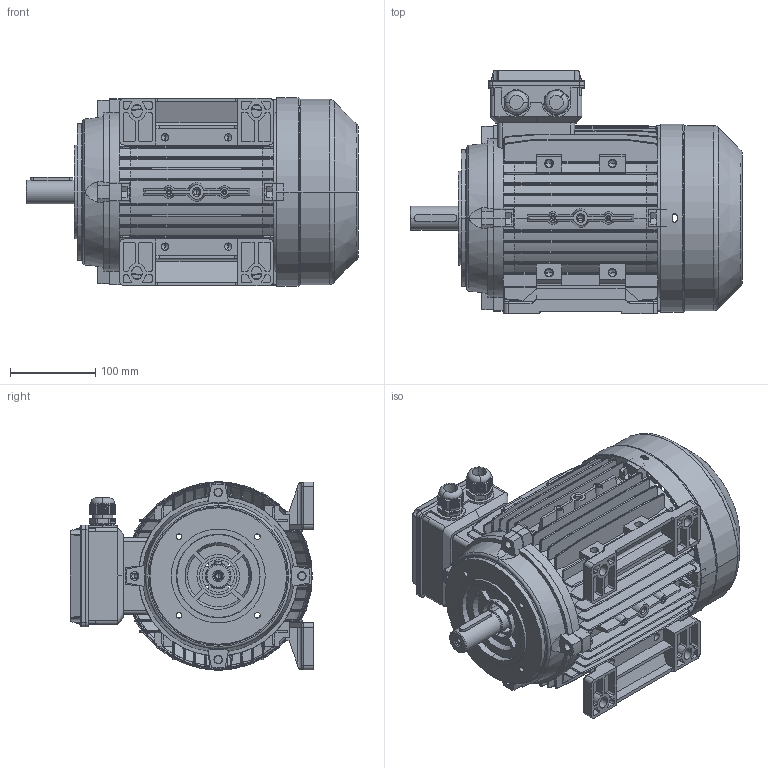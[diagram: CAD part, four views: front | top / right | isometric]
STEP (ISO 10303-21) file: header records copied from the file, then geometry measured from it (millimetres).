
FILE_DESCRIPTION (( 'STEP AP203' ), '1' );
FILE_NAME ('ME112M-2¡¢6P B34.STEP', '2016-04-29T10:38:25', ( 'PC' ), ( 'Microsoft' ), 'SwSTEP 2.0', 'SolidWorks 2014', '' );
FILE_SCHEMA (( 'CONFIG_CONTROL_DESIGN' ));
Length unit declared in the file: millimetre
Products named in the file (9): MS132諉盄碟裔; M112菁褐; M25 cable gland; M112-Shaft drive end; M112儂褲; ME112M-2﹜6P B34; MS132諉盄碟釱_2Holes; M112傷裔B14 ; M112瑞欶_95
Assembly tree (10 placements, depth 2):
  ME112M-2﹜6P B34
    M112儂褲
    M112瑞欶_95
    M25 cable gland  x2
    MS132諉盄碟釱_2Holes
    MS132諉盄碟裔
    M112-Shaft drive end
    M112傷裔B14 
    M112菁褐  x2
Bounding box: 389 x 285.5 x 220.5 mm (x, y, z)
Volume: 1791487.1 mm3; surface area: 1030868.4 mm2
Topology: 12 solids, 12 shells, 3612 faces, 9687 edges, 6103 vertices
Faces by surface type: plane 1751, cylinder 1018, bspline 452, cone 212, sphere 102, torus 77
Entity records: 119036 total; most frequent: CARTESIAN_POINT 43379, ORIENTED_EDGE 16410, DIRECTION 14231, EDGE_CURVE 8205, VERTEX_POINT 5183, AXIS2_PLACEMENT_3D 4771, LINE 4689, VECTOR 4689
